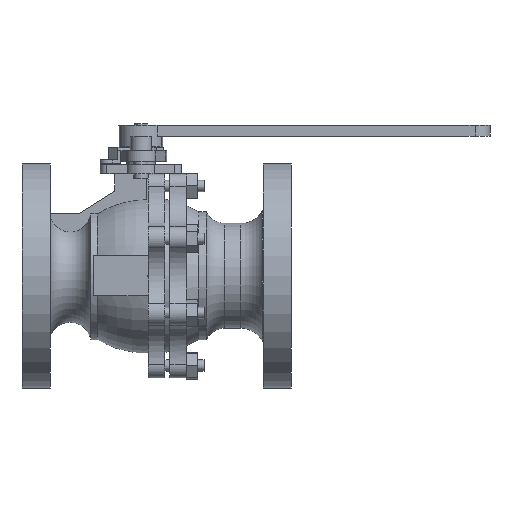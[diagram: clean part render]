
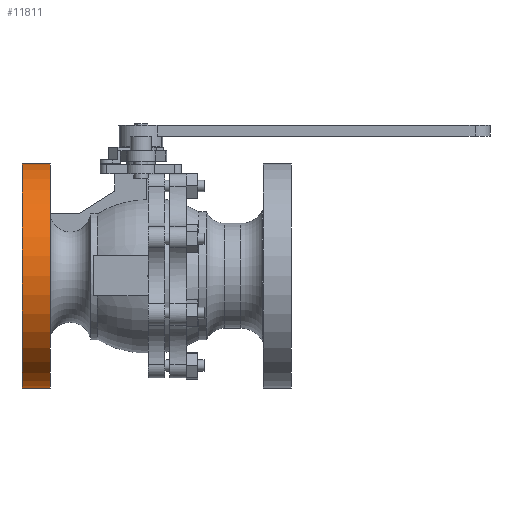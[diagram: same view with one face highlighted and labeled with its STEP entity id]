
A CAD part, front view. The second image highlights one B-rep face of the part: STEP entity #11811.
In plain terms, the highlighted cylindrical face has radius 5 mm (diameter 10 mm), a full revolution.
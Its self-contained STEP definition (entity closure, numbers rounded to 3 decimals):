
#7343 = PLANE('',#7344);
#7344 = AXIS2_PLACEMENT_3D('',#7345,#7346,#7347);
#7345 = CARTESIAN_POINT('',(0.,0.,0.));
#7346 = DIRECTION('',(-1.,0.,0.));
#7347 = DIRECTION('',(0.,0.,1.));
#11012 = PLANE('',#11013);
#11013 = AXIS2_PLACEMENT_3D('',#11014,#11015,#11016);
#11014 = CARTESIAN_POINT('',(1.25,0.,0.));
#11015 = DIRECTION('',(-1.,0.,0.));
#11016 = DIRECTION('',(0.,0.,1.));
#11111 = EDGE_CURVE('',#11112,#11112,#11114,.T.);
#11112 = VERTEX_POINT('',#11113);
#11113 = CARTESIAN_POINT('',(1.25,-5.,0.));
#11114 = SURFACE_CURVE('',#11115,(#11120,#11127),.PCURVE_S1.);
#11115 = CIRCLE('',#11116,5.);
#11116 = AXIS2_PLACEMENT_3D('',#11117,#11118,#11119);
#11117 = CARTESIAN_POINT('',(1.25,0.,0.));
#11118 = DIRECTION('',(-1.,0.,0.));
#11119 = DIRECTION('',(0.,-1.,0.));
#11120 = PCURVE('',#11012,#11121);
#11121 = DEFINITIONAL_REPRESENTATION('',(#11122),#11126);
#11122 = CIRCLE('',#11123,5.);
#11123 = AXIS2_PLACEMENT_2D('',#11124,#11125);
#11124 = CARTESIAN_POINT('',(0.,0.));
#11125 = DIRECTION('',(0.,-1.));
#11126 = ( GEOMETRIC_REPRESENTATION_CONTEXT(2) 
PARAMETRIC_REPRESENTATION_CONTEXT() REPRESENTATION_CONTEXT('2D SPACE',''
  ) );
#11127 = PCURVE('',#11128,#11133);
#11128 = CYLINDRICAL_SURFACE('',#11129,5.);
#11129 = AXIS2_PLACEMENT_3D('',#11130,#11131,#11132);
#11130 = CARTESIAN_POINT('',(0.,0.,0.));
#11131 = DIRECTION('',(1.,0.,0.));
#11132 = DIRECTION('',(0.,-1.,0.));
#11133 = DEFINITIONAL_REPRESENTATION('',(#11134),#11138);
#11134 = LINE('',#11135,#11136);
#11135 = CARTESIAN_POINT('',(6.283,1.25));
#11136 = VECTOR('',#11137,1.);
#11137 = DIRECTION('',(-1.,0.));
#11138 = ( GEOMETRIC_REPRESENTATION_CONTEXT(2) 
PARAMETRIC_REPRESENTATION_CONTEXT() REPRESENTATION_CONTEXT('2D SPACE',''
  ) );
#11811 = ADVANCED_FACE('',(#11812),#11128,.T.);
#11812 = FACE_BOUND('',#11813,.T.);
#11813 = EDGE_LOOP('',(#11814,#11815,#11837,#11859));
#11814 = ORIENTED_EDGE('',*,*,#11111,.T.);
#11815 = ORIENTED_EDGE('',*,*,#11816,.F.);
#11816 = EDGE_CURVE('',#11817,#11112,#11819,.T.);
#11817 = VERTEX_POINT('',#11818);
#11818 = CARTESIAN_POINT('',(0.,-5.,0.));
#11819 = SEAM_CURVE('',#11820,(#11823,#11830),.PCURVE_S1.);
#11820 = B_SPLINE_CURVE_WITH_KNOTS('',1,(#11821,#11822),.UNSPECIFIED.,
  .F.,.F.,(2,2),(0.,1.25),.PIECEWISE_BEZIER_KNOTS.);
#11821 = CARTESIAN_POINT('',(0.,-5.,0.));
#11822 = CARTESIAN_POINT('',(1.25,-5.,0.));
#11823 = PCURVE('',#11128,#11824);
#11824 = DEFINITIONAL_REPRESENTATION('',(#11825),#11829);
#11825 = LINE('',#11826,#11827);
#11826 = CARTESIAN_POINT('',(0.,0.));
#11827 = VECTOR('',#11828,1.);
#11828 = DIRECTION('',(0.,1.));
#11829 = ( GEOMETRIC_REPRESENTATION_CONTEXT(2) 
PARAMETRIC_REPRESENTATION_CONTEXT() REPRESENTATION_CONTEXT('2D SPACE',''
  ) );
#11830 = PCURVE('',#11128,#11831);
#11831 = DEFINITIONAL_REPRESENTATION('',(#11832),#11836);
#11832 = LINE('',#11833,#11834);
#11833 = CARTESIAN_POINT('',(6.283,0.));
#11834 = VECTOR('',#11835,1.);
#11835 = DIRECTION('',(0.,1.));
#11836 = ( GEOMETRIC_REPRESENTATION_CONTEXT(2) 
PARAMETRIC_REPRESENTATION_CONTEXT() REPRESENTATION_CONTEXT('2D SPACE',''
  ) );
#11837 = ORIENTED_EDGE('',*,*,#11838,.F.);
#11838 = EDGE_CURVE('',#11817,#11817,#11839,.T.);
#11839 = SURFACE_CURVE('',#11840,(#11845,#11852),.PCURVE_S1.);
#11840 = CIRCLE('',#11841,5.);
#11841 = AXIS2_PLACEMENT_3D('',#11842,#11843,#11844);
#11842 = CARTESIAN_POINT('',(0.,0.,0.));
#11843 = DIRECTION('',(-1.,0.,0.));
#11844 = DIRECTION('',(0.,-1.,0.));
#11845 = PCURVE('',#11128,#11846);
#11846 = DEFINITIONAL_REPRESENTATION('',(#11847),#11851);
#11847 = LINE('',#11848,#11849);
#11848 = CARTESIAN_POINT('',(6.283,0.));
#11849 = VECTOR('',#11850,1.);
#11850 = DIRECTION('',(-1.,0.));
#11851 = ( GEOMETRIC_REPRESENTATION_CONTEXT(2) 
PARAMETRIC_REPRESENTATION_CONTEXT() REPRESENTATION_CONTEXT('2D SPACE',''
  ) );
#11852 = PCURVE('',#7343,#11853);
#11853 = DEFINITIONAL_REPRESENTATION('',(#11854),#11858);
#11854 = CIRCLE('',#11855,5.);
#11855 = AXIS2_PLACEMENT_2D('',#11856,#11857);
#11856 = CARTESIAN_POINT('',(0.,0.));
#11857 = DIRECTION('',(0.,-1.));
#11858 = ( GEOMETRIC_REPRESENTATION_CONTEXT(2) 
PARAMETRIC_REPRESENTATION_CONTEXT() REPRESENTATION_CONTEXT('2D SPACE',''
  ) );
#11859 = ORIENTED_EDGE('',*,*,#11816,.T.);
